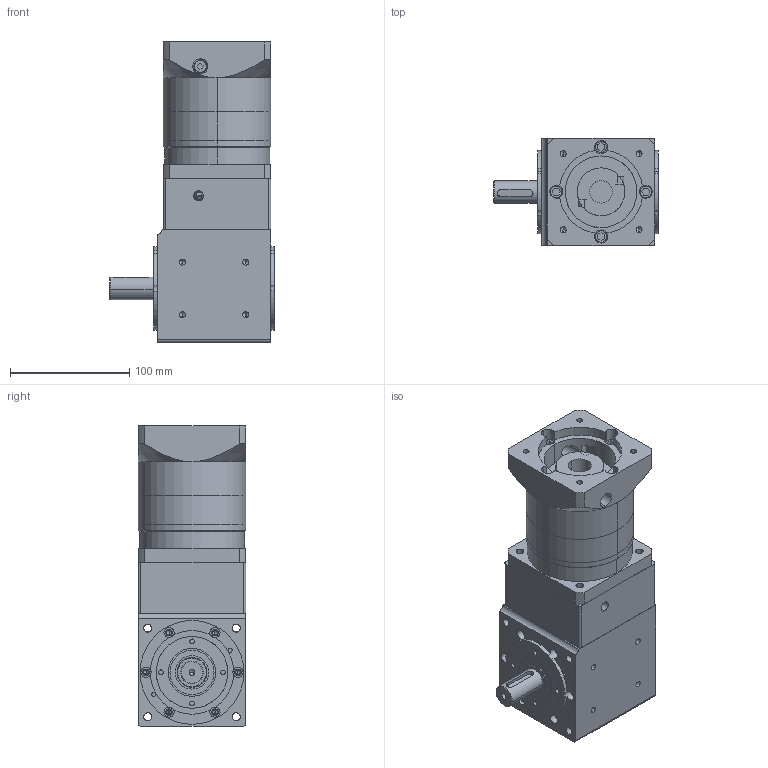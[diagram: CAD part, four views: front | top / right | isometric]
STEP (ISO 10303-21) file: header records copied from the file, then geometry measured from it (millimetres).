
FILE_DESCRIPTION (( 'STEP AP203' ), '1' );
FILE_NAME ('PVFD090单轴装配图+PLF090（750W）.STEP', '2020-08-04T07:49:45', ( 'User' ), ( 'China' ), 'SwSTEP 2.0', 'SolidWorks 2015', '' );
FILE_SCHEMA (( 'CONFIG_CONTROL_DESIGN' ));
Length unit declared in the file: millimetre
Products named in the file (12): PVFDo9o眊极; 25-40-7蚐猾; PVFD090͹̨; PLF090单级三维图（750W）; deep groove ball bearings gb_Rolling bearings 6005 GB 276-94; PVFD090单轴装配图+PLF090（750W）; tapered roller bearings gb_Rolling bearings 32005 GB 297-94; PVFD090綴楊擘; PVFD090標杶; PVFD090蹟譫; PVFD090怀堤粣; PVFD090输入轴
Assembly tree (15 placements, depth 2):
  PVFD090单轴装配图+PLF090（750W）
    PVFDo9o眊极
    PVFD090͹̨  x2
    deep groove ball bearings gb_Rolling bearings 6005 GB 276-94  x2
    tapered roller bearings gb_Rolling bearings 32005 GB 297-94
    PVFD090綴楊擘
    PVFD090標杶
    PVFD090蹟譫  x2
    PVFD090怀堤粣
    PVFD090输入轴
    25-40-7蚐猾  x2
    PLF090单级三维图（750W）
Bounding box: 138 x 90 x 251.5 mm (x, y, z)
Volume: 1553565.5 mm3; surface area: 338541.7 mm2
Topology: 17 solids, 17 shells, 1303 faces, 4133 edges, 2678 vertices
Faces by surface type: cylinder 503, plane 336, torus 224, cone 164, sphere 76
Entity records: 42656 total; most frequent: CARTESIAN_POINT 12735, ORIENTED_EDGE 6196, DIRECTION 5915, EDGE_CURVE 3098, AXIS2_PLACEMENT_3D 2484, VERTEX_POINT 2033, CIRCLE 1383, EDGE_LOOP 1317
